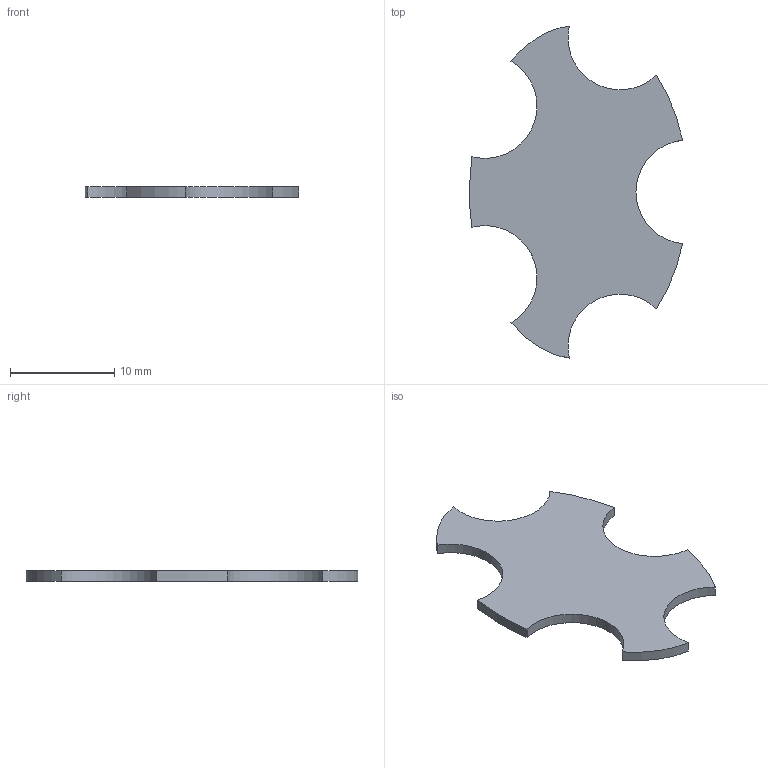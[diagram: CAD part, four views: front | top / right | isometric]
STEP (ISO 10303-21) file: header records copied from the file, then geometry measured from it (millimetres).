
FILE_DESCRIPTION (( 'STEP AP214' ), '1' );
FILE_NAME ('Ej01-v01.STEP', '2012-01-30T14:00:58', ( '' ), ( '' ), 'SwSTEP 2.0', 'SolidWorks 2011', '' );
FILE_SCHEMA (( 'AUTOMOTIVE_DESIGN' ));
Length unit declared in the file: millimetre
Products named in the file (1): Ej01-v01
Bounding box: 20.48 x 31.88 x 1 mm (x, y, z)
Volume: 347 mm3; surface area: 796.9 mm2
Topology: 1 solids, 1 shells, 15 faces, 39 edges, 26 vertices
Faces by surface type: cylinder 8, bspline 5, plane 2
Entity records: 518 total; most frequent: CARTESIAN_POINT 146, ORIENTED_EDGE 78, DIRECTION 67, EDGE_CURVE 39, AXIS2_PLACEMENT_3D 27, VERTEX_POINT 26, CIRCLE 16, ADVANCED_FACE 15
